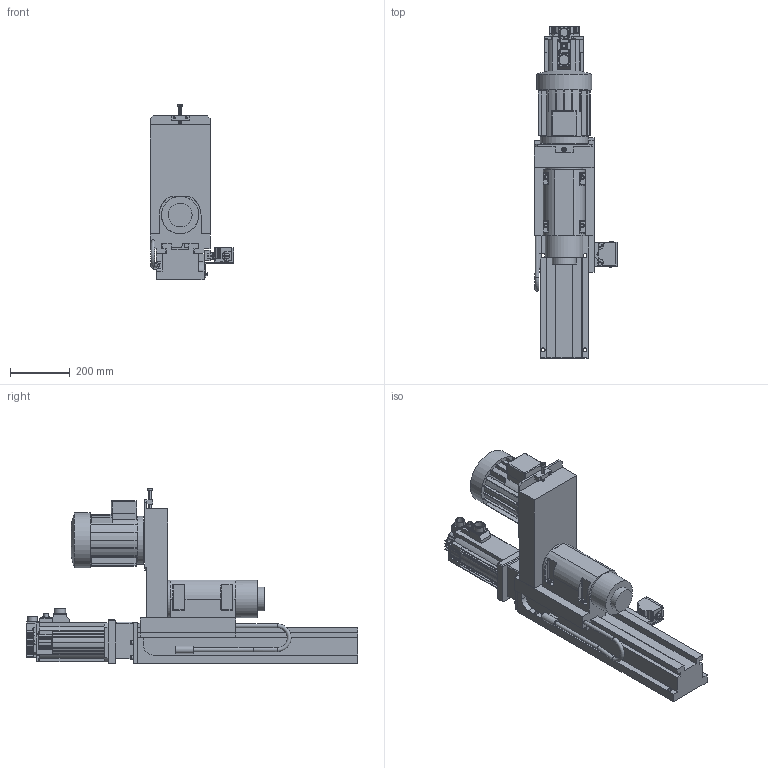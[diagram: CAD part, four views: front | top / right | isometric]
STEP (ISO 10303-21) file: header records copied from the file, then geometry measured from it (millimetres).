
FILE_DESCRIPTION((''),'2;1');
FILE_NAME('C:\VaultWork\Zeichnungen\Maßblätter\BF3b\BF01379-0-0 Maßblatt BF3b-H160-me-400-EE.stp','2009-04-17T16:15:43',('Test'),(''),'Autodesk Inventor 2008','Autodesk Inventor 2008','');
FILE_SCHEMA(('AUTOMOTIVE_DESIGN { 1 0 10303 214 1 1 1 1 }'));
Length unit declared in the file: millimetre
Products named in the file (1): BF01379-0-0 Maßblatt BF3b-H160-me-400-EE
Bounding box: 279.5 x 1109 x 588 mm (x, y, z)
Volume: 34959510.1 mm3; surface area: 1708742.2 mm2
Topology: 2 solids, 10 shells, 1259 faces, 3264 edges, 2114 vertices
Faces by surface type: plane 818, cylinder 335, bspline 46, cone 29, torus 25, sphere 6
Full cylindrical faces by diameter (mm): 3.8 x2, 4 x2, 4.917 x2, 5.9 x2, 6 x4, 6.6 x2, 8 x7, 9.98 x2, 10 x7, 13 x8, 16 x1, 20 x2, 25 x1, 27 x1, 80 x1, 88 x1, 125 x2, 140 x1, 158 x1, 160 x1, 184 x1
Entity records: 40801 total; most frequent: CARTESIAN_POINT 9128, DIRECTION 6264, ORIENTED_EDGE 6170, EDGE_CURVE 3085, VECTOR 2102, LINE 2102, AXIS2_PLACEMENT_3D 2081, VERTEX_POINT 2055
